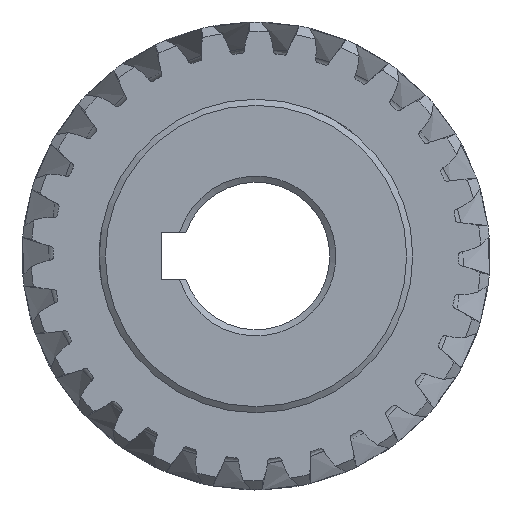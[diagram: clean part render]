
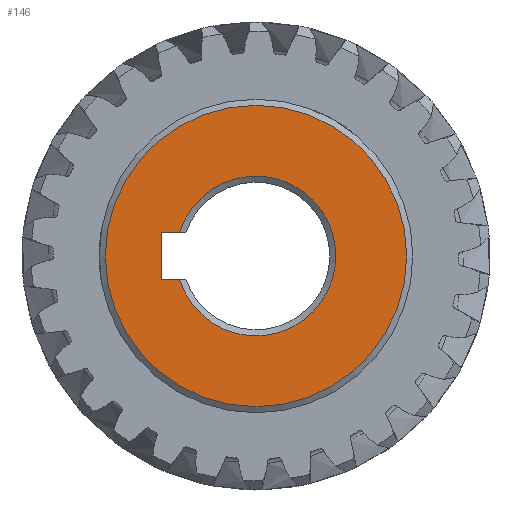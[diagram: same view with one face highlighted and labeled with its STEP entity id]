
A CAD part, left-side view. The second image highlights one B-rep face of the part: STEP entity #146.
In plain terms, the highlighted planar face has unit normal (-1, 0, 0).
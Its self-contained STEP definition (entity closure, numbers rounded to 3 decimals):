
#146=ADVANCED_FACE('',(#2966,#2968),#2970,.T.);
#2966=FACE_BOUND('',#2967,.T.);
#2967=EDGE_LOOP('',(#9995));
#2968=FACE_BOUND('',#2969,.T.);
#2969=EDGE_LOOP('',(#9996,#9997,#9998,#9999));
#2970=PLANE('',#2971);
#2971=AXIS2_PLACEMENT_3D('',#2972,#2973,#2974);
#2972=CARTESIAN_POINT('',(-15.,0.,0.));
#2973=DIRECTION('',(-1.,0.,-0.));
#2974=DIRECTION('',(0.,0.,-1.));
#9995=ORIENTED_EDGE('',*,*,#11638,.T.);
#9996=ORIENTED_EDGE('',*,*,#11821,.T.);
#9997=ORIENTED_EDGE('',*,*,#11831,.T.);
#9998=ORIENTED_EDGE('',*,*,#11829,.T.);
#9999=ORIENTED_EDGE('',*,*,#11832,.T.);
#11638=EDGE_CURVE('',#12572,#12572,#12573,.T.);
#11821=EDGE_CURVE('',#12938,#12936,#12939,.F.);
#11829=EDGE_CURVE('',#12952,#12950,#12953,.F.);
#11831=EDGE_CURVE('',#12936,#12952,#12955,.F.);
#11832=EDGE_CURVE('',#12950,#12938,#12956,.F.);
#12572=VERTEX_POINT('',#14319);
#12573=CIRCLE('',#14320,16.336);
#12936=VERTEX_POINT('',#15289);
#12938=VERTEX_POINT('',#15296);
#12939=LINE('',#15297,#15298);
#12950=VERTEX_POINT('',#15329);
#12952=VERTEX_POINT('',#15333);
#12953=LINE('',#15334,#15335);
#12955=CIRCLE('',#15343,8.664);
#12956=LINE('',#15347,#15348);
#14319=CARTESIAN_POINT('',(-15.,0.,-16.336));
#14320=AXIS2_PLACEMENT_3D('',#14321,#14322,#14323);
#14321=CARTESIAN_POINT('',(-15.,0.,0.));
#14322=DIRECTION('',(-1.,0.,-0.));
#14323=DIRECTION('',(0.,0.,-1.));
#15289=CARTESIAN_POINT('',(-15.,8.295,2.5));
#15296=CARTESIAN_POINT('',(-15.,10.3,2.5));
#15297=CARTESIAN_POINT('',(-15.,8.295,2.5));
#15298=VECTOR('',#15299,1.);
#15299=DIRECTION('',(0.,1.,0.));
#15329=CARTESIAN_POINT('',(-15.,10.3,-2.5));
#15333=CARTESIAN_POINT('',(-15.,8.295,-2.5));
#15334=CARTESIAN_POINT('',(-15.,10.3,-2.5));
#15335=VECTOR('',#15336,1.);
#15336=DIRECTION('',(0.,-1.,0.));
#15343=AXIS2_PLACEMENT_3D('',#15344,#15345,#15346);
#15344=CARTESIAN_POINT('',(-15.,0.,0.));
#15345=DIRECTION('',(-1.,0.,-0.));
#15346=DIRECTION('',(0.,0.957,-0.289));
#15347=CARTESIAN_POINT('',(-15.,10.3,2.5));
#15348=VECTOR('',#15349,1.);
#15349=DIRECTION('',(0.,0.,-1.));
